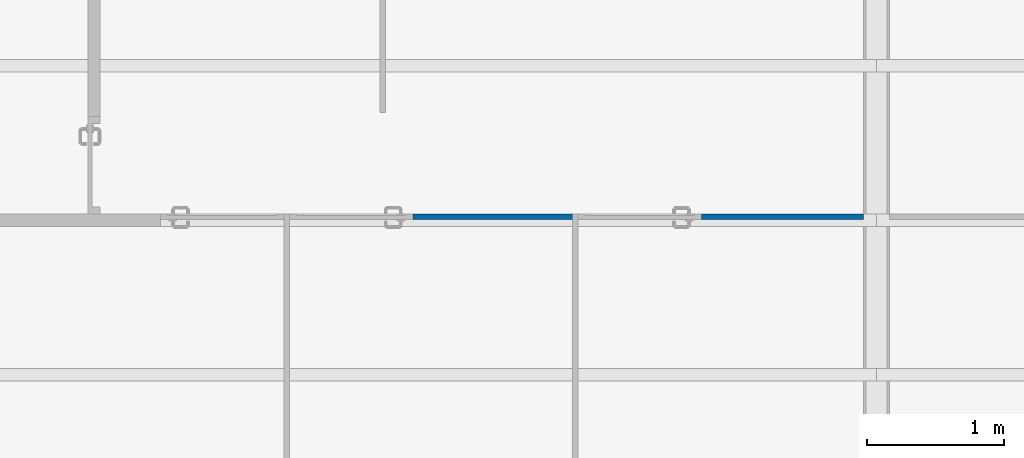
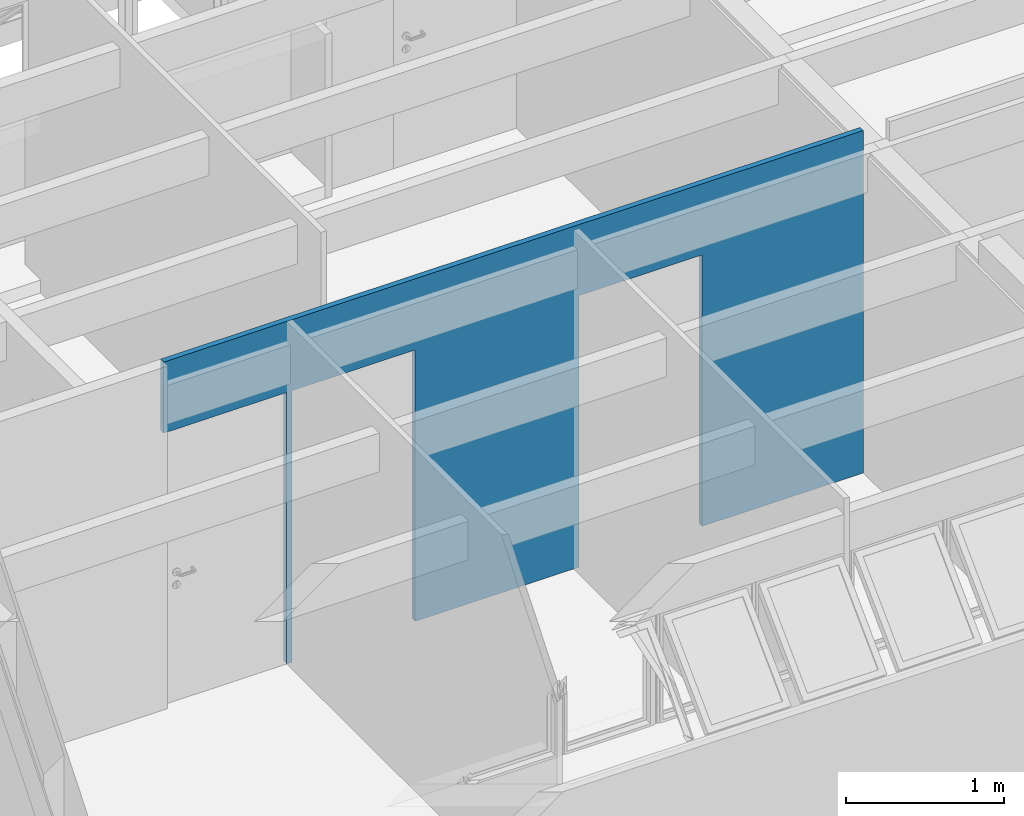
# One storey, part 5 of 37: 1 wall, 3 openings.
"""IFC2X3 building model written with IfcOpenShell, lengths in millimetres."""

from ifc_helpers import new_model, entity, si_unit, converted_unit, derived_unit, money_unit, direction, frame, origin_with_axes, origin_2d_with_axis, place, context, subcontext, project, spatial, polyline, rectangle, outline, extrude, material, layer, layer_set, layer_usage, type_object, element, save


model = new_model("IFC2X3")

# Units and contexts
model_context = context("Model", 3, precision=0.01, world=origin_with_axes(), true_north=direction((0.0, 1.0)))
body_context = subcontext(model_context, "Body", "Model", "MODEL_VIEW")
ifc_project = project(units=[si_unit("LENGTHUNIT", "METRE", prefix="MILLI"), si_unit("AREAUNIT", "SQUARE_METRE"), si_unit("VOLUMEUNIT", "CUBIC_METRE"), converted_unit("PLANEANGLEUNIT", "DEGREE", entity("IfcPlaneAngleMeasure", 0.0174532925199), si_unit("PLANEANGLEUNIT", "RADIAN"), dimensions=[0, 0, 0, 0, 0, 0, 0]), money_unit("USD"), converted_unit("TIMEUNIT", "Year", entity("IfcTimeMeasure", 31556926.0), si_unit("TIMEUNIT", "SECOND"), dimensions=[0, 0, 1, 0, 0, 0, 0]), si_unit("MASSUNIT", "GRAM", prefix="KILO"), si_unit("THERMODYNAMICTEMPERATUREUNIT", "DEGREE_CELSIUS"), si_unit("LUMINOUSINTENSITYUNIT", "LUMEN"), si_unit("ENERGYUNIT", "JOULE", prefix="MEGA"), derived_unit("THERMALCONDUCTANCEUNIT", [(si_unit("POWERUNIT", "WATT"), 1), (si_unit("LENGTHUNIT", "METRE"), -1), (si_unit("THERMODYNAMICTEMPERATUREUNIT", "KELVIN"), -1)]), derived_unit("SPECIFICHEATCAPACITYUNIT", [(si_unit("ENERGYUNIT", "JOULE"), 1), (si_unit("MASSUNIT", "GRAM", prefix="KILO"), -1), (si_unit("THERMODYNAMICTEMPERATUREUNIT", "KELVIN"), -1)]), derived_unit("MASSDENSITYUNIT", [(si_unit("MASSUNIT", "GRAM", prefix="KILO"), 1), (si_unit("VOLUMEUNIT", "CUBIC_METRE"), -1)])], contexts=[model_context])

# Site, building, storey
site_placement = place(None, origin_with_axes())
site = spatial("IfcSite", under=ifc_project, at=site_placement, Name="Local", CompositionType="ELEMENT")
building_placement = place(site_placement, origin_with_axes())
building = spatial("IfcBuilding", under=site, at=building_placement, Name="Construção", CompositionType="ELEMENT")
storey_placement = place(building_placement, frame((0.0, 0.0, 5300.0), z_axis=(0.0, 0.0, 1.0), x_axis=(1.0, 0.0, 0.0)))
storey = spatial("IfcBuildingStorey", under=building, at=storey_placement, Name="Terceiro Pavimento", CompositionType="ELEMENT", Elevation=5300.0)

# Wall, openings
ifc_material = material(Name="GENÉRICO - VEDAÇÃO EXTERNA")
ifc_layer = layer(ifc_material, 40.0, ventilated="UNKNOWN")
ifc_layer_set = layer_set([ifc_layer], Name="GENÉRICO - VEDAÇÃO EXTERNA 40")
ifc_layer_usage = layer_usage(ifc_layer_set, "AXIS2", "NEGATIVE", 0.0)
wall_type = type_object("IfcWallType", Name="GENÉRICO - VEDAÇÃO EXTERNA 40", PredefinedType="NOTDEFINED")
wall_placement = place(storey_placement, frame((2170.0, 3765.2195667, 0.0), z_axis=(0.0, 0.0, 1.0), x_axis=(0.99999999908, -4.28841203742e-05, 0.0)))
wall = element("IfcWallStandardCase", 1, at=wall_placement, inside=storey, type_object=wall_type, material=ifc_layer_usage, Name="APTO9-PAREDE-006", context=body_context, shape_type="SweptSolid", body=[
    extrude(outline(polyline([(0.000857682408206, -40.0), (5120.00000471, -40.0), (5120.00000471, 0.0), (0.0, 0.0), (0.000857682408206, -40.0)])), origin_with_axes(), (0.0, 0.0, 1.0), 2650.0),
])
opening_1_placement = place(wall_placement, frame((1390.00000471, 0.0, 0.0), z_axis=(0.0, 0.0, 1.0), x_axis=(1.0, 0.0, 0.0)))
element("IfcOpeningElement", 2, at=opening_1_placement, cuts=wall, Name="APTO9-PORTA-002", context=body_context, shape_type="SweptSolid", body=[
    extrude(rectangle(XDim=900.0, YDim=2100.0, at=origin_2d_with_axis()), frame((0.0, -40.0, 1050.0), z_axis=(0.0, 1.0, 0.0), x_axis=(-1.0, 0.0, 0.0)), (0.0, 0.0, 1.0), 120.0),
])
opening_2_placement = place(wall_placement, frame((450.000004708, 0.0, 0.0), z_axis=(0.0, 0.0, 1.0), x_axis=(1.0, 0.0, 0.0)))
element("IfcOpeningElement", 3, at=opening_2_placement, cuts=wall, Name="APTO9-PORTA-001", context=body_context, shape_type="SweptSolid", body=[
    extrude(rectangle(XDim=900.0, YDim=2100.0, at=origin_2d_with_axis()), frame((0.0, -40.0, 1050.0), z_axis=(0.0, -1.0, 0.0), x_axis=(1.0, 0.0, 0.0)), (0.0, 0.0, -1.0), 120.0),
])
opening_3_placement = place(wall_placement, frame((3490.00000471, 0.0, 0.0), z_axis=(0.0, 0.0, 1.0), x_axis=(1.0, 0.0, 0.0)))
element("IfcOpeningElement", 4, at=opening_3_placement, cuts=wall, Name="APTO9-PORTA-000", context=body_context, shape_type="SweptSolid", body=[
    extrude(rectangle(XDim=900.0, YDim=2100.0, at=origin_2d_with_axis()), frame((0.0, -40.0, 1050.0), z_axis=(0.0, 1.0, 0.0), x_axis=(-1.0, 0.0, 0.0)), (0.0, 0.0, 1.0), 120.0),
])

save(model, "model.ifc")
